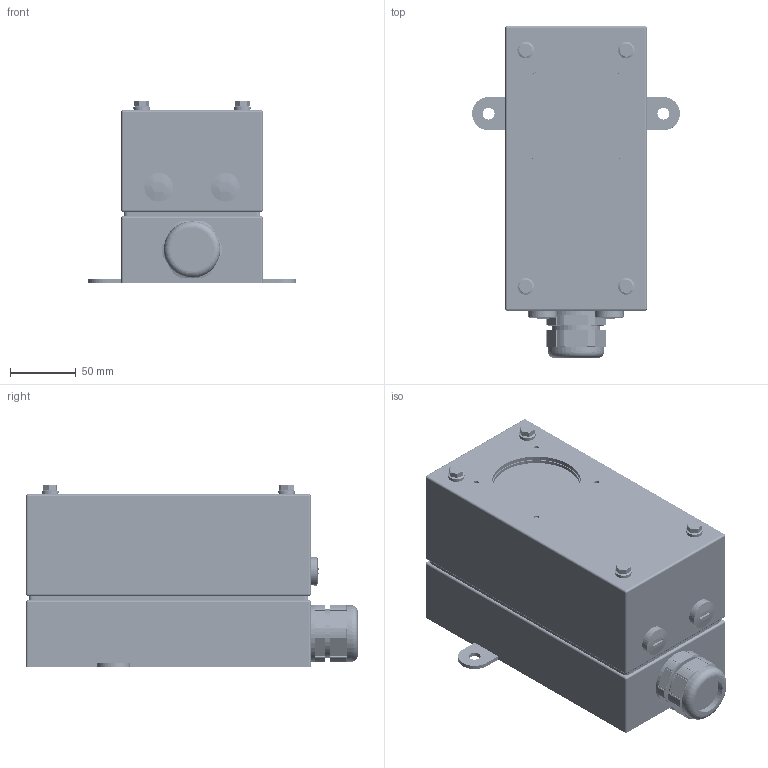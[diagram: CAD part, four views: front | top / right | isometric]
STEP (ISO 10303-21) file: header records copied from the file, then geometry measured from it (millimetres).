
FILE_DESCRIPTION (( 'STEP AP203' ), '1' );
FILE_NAME ('L7-BA.STEP', '2021-11-24T12:44:19', ( '' ), ( '' ), 'SwSTEP 2.0', 'SolidWorks 2021', '' );
FILE_SCHEMA (( 'CONFIG_CONTROL_DESIGN' ));
Length unit declared in the file: inch
Products named in the file (26): PG11-I04; 201022; PG29-S01; 400101; 200416; 800003_DEFAULT; 200309; 93625A200; L7-BA; 200415; PG29-B04; 200435; 93635A251_93635A251; 800002_DEFAULT; PG29-I01; SP-M6-1; 94639A447_94639A447; PG29-N01; RSC62200; 92095A189_92095A189; PG11-S01; PG29-04-01-01-01; 200434; 400200; 500100; PG11-N03
Assembly tree (53 placements, depth 3):
  L7-BA
    200416
      200415
      SP-M6-1  x4
      800003_DEFAULT  x3
    400200
    200435
      200434
      800002_DEFAULT  x4
    PG29-04-01-01-01
      PG29-B04
      PG29-I01
      PG29-S01
      PG29-N01
    400101
    500100
    200309
    PG11-N03  x2
    PG11-I04  x2
    PG11-S01  x2
    201022
    93625A200  x7
    94639A447_94639A447  x3
    RSC62200  x4
    93635A251_93635A251  x4
    92095A189_92095A189  x4
Bounding box: 158.75 x 253.17 x 139.38 mm (x, y, z)
Volume: 431870.4 mm3; surface area: 400372.3 mm2
Topology: 72 solids, 72 shells, 2993 faces, 7940 edges, 5154 vertices
Faces by surface type: cylinder 1809, plane 691, cone 342, bspline 112, sphere 20, torus 19
Entity records: 85003 total; most frequent: CARTESIAN_POINT 54594, ORIENTED_EDGE 6078, DIRECTION 5183, EDGE_CURVE 3039, VERTEX_POINT 1964, AXIS2_PLACEMENT_3D 1938, LINE 1307, VECTOR 1307
